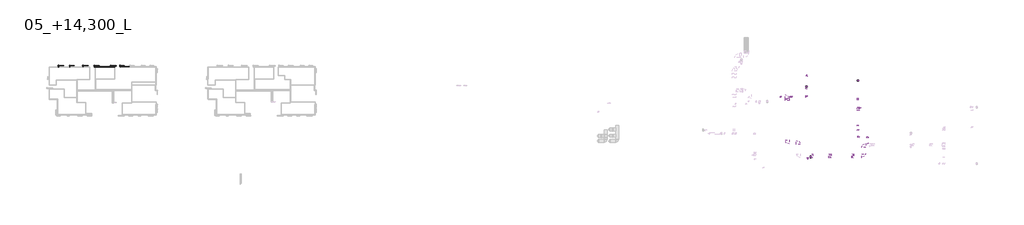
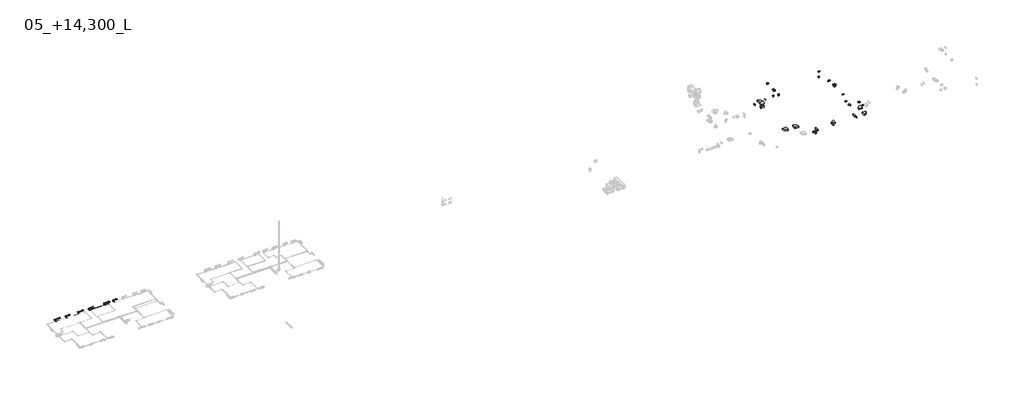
# One storey, part 13 of 15: 29 duct fittings, 25 pipe fittings, 21 pipe segments, 6 air terminals, 6 dampers, 6 proxies, 6 valves.
"""IFC4 building model written with IfcOpenShell, lengths in millimetres."""

from ifc_helpers import new_model, si_unit, point, frame, frame_2d, origin, place, context, project, spatial, circle_curve, trimmed, segment, composite_curve, outline, extrude, transform, mapped, element, save
from components import air_terminal_c7000286, mechanical_equipment_fc217036, mechanical_equipment_c0c35615, mechanical_equipment_c68842d5, mechanical_equipment_6df30eec, damper_914ab716, duct_fitting_44bc2392, duct_fitting_d71fa620, duct_fitting_440069ba, duct_fitting_c4820838, duct_fitting_b2306584, duct_fitting_946d3545, duct_fitting_a8f1dc46, duct_fitting_7af94283, duct_fitting_472c109a, duct_fitting_bc71a962, duct_fitting_01e88b05, duct_fitting_0ad4c2ae, pipe_fitting_ed936812, pipe_fitting_44bd76dc, pipe_fitting_8f811e63, pipe_fitting_d927fdfb, valve_5b696a81, valve_d3faaedd, valve_8453c3c0

model = new_model("IFC4")

# Units and contexts
model_context = context("Model", 3, world=origin())
ifc_project = project(units=[si_unit("LENGTHUNIT", "METRE", prefix="MILLI")], contexts=[model_context])

# Site, building, storey
site = spatial("IfcSite", under=ifc_project)
building = spatial("IfcBuilding", under=site)
storey = spatial("IfcBuildingStorey", under=building, Name="05_+14,300_L", Elevation=14300.0)

# Air terminals
placement = place(None, origin())
air_terminal_shape = air_terminal_c7000286(model_context)
element("IfcAirTerminal", 1, ObjectType="ADSK_ПВК_Сетка прямоугольная защитная Вытяжная : Сетка 500х250", at=placement, inside=storey, context=model_context, shape_type="MappedRepresentation", body=[
    mapped(air_terminal_shape, transform((252865.1831845, 115071.4903348, 17300.0), x_axis=(0.0, -1.0, 0.0), y_axis=(1.0, 0.0, 0.0), z_axis=(0.0, 0.0, 1.0))),
])
element("IfcAirTerminal", 2, ObjectType="ADSK_ПВК_Сетка прямоугольная защитная Вытяжная : Сетка 500х250", at=placement, inside=storey, context=model_context, shape_type="MappedRepresentation", body=[
    mapped(air_terminal_shape, transform((252455.1831845, 123667.4229855, 15000.0), x_axis=(1.0, 0.0, 0.0), y_axis=(0.0, 0.0, -1.0), z_axis=(0.0, 1.0, 0.0))),
])
element("IfcAirTerminal", 3, ObjectType="ADSK_ПВК_Сетка прямоугольная защитная Вытяжная : Сетка 500х250", at=placement, inside=storey, context=model_context, shape_type="MappedRepresentation", body=[
    mapped(air_terminal_shape, transform((237555.1831846, 99667.4589168, 15000.0), x_axis=(0.0, -1.0, 0.0), y_axis=(0.0, 0.0, -1.0), z_axis=(1.0, 0.0, 0.0))),
])
element("IfcAirTerminal", 4, ObjectType="ADSK_ПВК_Сетка прямоугольная защитная Вытяжная : Сетка 500х250", at=placement, inside=storey, context=model_context, shape_type="MappedRepresentation", body=[
    mapped(air_terminal_shape, transform((236664.9634687, 99232.5049086, 15900.0), x_axis=(-1.0, 0.0, 0.0), y_axis=(0.0, -1.0, 0.0), z_axis=(0.0, 0.0, 1.0))),
])
element("IfcAirTerminal", 5, ObjectType="ADSK_ПВК_Сетка прямоугольная защитная Вытяжная : Сетка 500х250", at=placement, inside=storey, context=model_context, shape_type="MappedRepresentation", body=[
    mapped(air_terminal_shape, transform((236255.1831845, 121886.1821747, 15000.0), x_axis=(-1.0, 0.0, 0.0), y_axis=(0.0, 0.0, -1.0), z_axis=(0.0, -1.0, 0.0))),
])
element("IfcAirTerminal", 6, ObjectType="ADSK_ПВК_Сетка прямоугольная защитная Вытяжная : Сетка 500х250", at=placement, inside=storey, context=model_context, shape_type="MappedRepresentation", body=[
    mapped(air_terminal_shape, transform((236255.1831845, 125257.4963208, 17274.6001016), x_axis=(1.0, 0.0, 0.0), y_axis=(0.0, 1.0, 0.0), z_axis=(0.0, 0.0, 1.0))),
])

# Proxies
mechanical_equipment_shape = mechanical_equipment_fc217036(model_context)
element("IfcBuildingElementProxy", 7, Name="EVRA CV Д : 22-300-1800", ObjectType="EVRA CV Д : 22-300-1800", at=placement, inside=storey, context=model_context, shape_type="MappedRepresentation", body=[
    mapped(mechanical_equipment_shape, transform((17960.0, 128438.5368898, 14300.0), x_axis=(1.0, 0.0, 0.0), y_axis=(0.0, 1.0, 0.0), z_axis=(0.0, 0.0, 1.0))),
])
mechanical_equipment_2_shape = mechanical_equipment_c0c35615(model_context)
element("IfcBuildingElementProxy", 8, Name="EVRA CV Д : 21-300-1600", ObjectType="EVRA CV Д : 21-300-1600", at=placement, inside=storey, context=model_context, shape_type="MappedRepresentation", body=[
    mapped(mechanical_equipment_2_shape, transform((12650.0, 128438.5368898, 14300.0), x_axis=(1.0, 0.0, 0.0), y_axis=(0.0, 1.0, 0.0), z_axis=(0.0, 0.0, 1.0))),
])
mechanical_equipment_3_shape = mechanical_equipment_c68842d5(model_context)
element("IfcBuildingElementProxy", 9, Name="EVRA CV Д : 21-300-1400", ObjectType="EVRA CV Д : 21-300-1400", at=placement, inside=storey, context=model_context, shape_type="MappedRepresentation", body=[
    mapped(mechanical_equipment_3_shape, transform((20700.0, 128438.5368898, 14300.0), x_axis=(1.0, 0.0, 0.0), y_axis=(0.0, 1.0, 0.0), z_axis=(0.0, 0.0, 1.0))),
])
element("IfcBuildingElementProxy", 10, Name="EVRA CV Д : 21-300-1400", ObjectType="EVRA CV Д : 21-300-1400", at=placement, inside=storey, context=model_context, shape_type="MappedRepresentation", body=[
    mapped(mechanical_equipment_3_shape, transform((4900.0, 128438.5368898, 14300.0), x_axis=(1.0, 0.0, 0.0), y_axis=(0.0, 1.0, 0.0), z_axis=(0.0, 0.0, 1.0))),
])
mechanical_equipment_4_shape = mechanical_equipment_6df30eec(model_context)
element("IfcBuildingElementProxy", 11, Name="EVRA CV Д : 21-300-1800", ObjectType="EVRA CV Д : 21-300-1800", at=placement, inside=storey, context=model_context, shape_type="MappedRepresentation", body=[
    mapped(mechanical_equipment_4_shape, transform((1500.0, 128438.5368898, 14300.0), x_axis=(1.0, 0.0, 0.0), y_axis=(0.0, 1.0, 0.0), z_axis=(0.0, 0.0, 1.0))),
])
element("IfcBuildingElementProxy", 12, Name="EVRA CV Д : 21-300-1800", ObjectType="EVRA CV Д : 21-300-1800", at=placement, inside=storey, context=model_context, shape_type="MappedRepresentation", body=[
    mapped(mechanical_equipment_4_shape, transform((9200.0, 128438.5368898, 14300.0), x_axis=(1.0, 0.0, 0.0), y_axis=(0.0, 1.0, 0.0), z_axis=(0.0, 0.0, 1.0))),
])

# Dampers
damper_shape = damper_914ab716(model_context)
element("IfcDamper", 13, ObjectType="АВК : АВК 500х250К8", at=placement, inside=storey, context=model_context, shape_type="MappedRepresentation", body=[
    mapped(damper_shape, transform((252797.6831845, 115071.4903348, 17300.0), x_axis=(-1.0, 0.0, 0.0), y_axis=(0.0, 1.0, 0.0), z_axis=(0.0, 0.0, -1.0))),
])
element("IfcDamper", 14, ObjectType="АВК : АВК 500х250К8", at=placement, inside=storey, context=model_context, shape_type="MappedRepresentation", body=[
    mapped(damper_shape, transform((236664.9634687, 99300.0049086, 15900.0), x_axis=(0.0, 1.0, 0.0), y_axis=(1.0, 0.0, 0.0), z_axis=(0.0, 0.0, -1.0))),
])
element("IfcDamper", 15, ObjectType="АВК : АВК 500х250К8", at=placement, inside=storey, context=model_context, shape_type="MappedRepresentation", body=[
    mapped(damper_shape, transform((236255.1831845, 125189.9963208, 17274.6001016), x_axis=(0.0, -1.0, 0.0), y_axis=(-1.0, 0.0, 0.0), z_axis=(0.0, 0.0, -1.0))),
])
element("IfcDamper", 16, ObjectType="АВК : АВК 500х250К8", at=placement, inside=storey, context=model_context, shape_type="MappedRepresentation", body=[
    mapped(damper_shape, transform((237555.1831846, 99667.4589168, 15500.0), x_axis=(0.0, 0.0, -1.0), y_axis=(0.0, -1.0, 0.0), z_axis=(-1.0, 0.0, 0.0))),
])
element("IfcDamper", 17, ObjectType="АВК : АВК 500х250К8", at=placement, inside=storey, context=model_context, shape_type="MappedRepresentation", body=[
    mapped(damper_shape, transform((252455.1831845, 114363.0425232, 17300.0), x_axis=(0.0, -1.0, 0.0), y_axis=(-1.0, 0.0, 0.0), z_axis=(0.0, 0.0, -1.0))),
])
element("IfcDamper", 18, ObjectType="АВК : АВК 500х250К8", at=placement, inside=storey, context=model_context, shape_type="MappedRepresentation", body=[
    mapped(damper_shape, transform((236255.1831845, 121127.4589173, 17274.6001016), x_axis=(0.0, 1.0, 0.0), y_axis=(1.0, 0.0, 0.0), z_axis=(0.0, 0.0, -1.0))),
])

# Duct fittings
duct_fitting_shape = duct_fitting_44bc2392(model_context)
element("IfcDuctFitting", 19, ObjectType="ADSK_ВрезкаВоздуховода_Прямоугольная1 : Стандарт 2", at=placement, inside=storey, context=model_context, shape_type="MappedRepresentation", body=[
    mapped(duct_fitting_shape, transform((236664.9634687, 99392.4589168, 15900.0), x_axis=(0.0, -1.0, 0.0), y_axis=(-1.0, 0.0, 0.0), z_axis=(0.0, 0.0, -1.0))),
])
duct_fitting_2_shape = duct_fitting_d71fa620(model_context)
element("IfcDuctFitting", 20, ObjectType="ADSK_ВрезкаВоздуховода_Прямоугольная1 : Стандарт 2", at=placement, inside=storey, context=model_context, shape_type="MappedRepresentation", body=[
    mapped(duct_fitting_2_shape, transform((228148.0764034, 118634.4589168, 16925.0), x_axis=(0.0, 0.0, -1.0), y_axis=(0.0, -1.0, 0.0), z_axis=(-1.0, 0.0, 0.0))),
])
element("IfcDuctFitting", 21, ObjectType="ADSK_ВрезкаВоздуховода_Прямоугольная1 : Стандарт 2", at=placement, inside=storey, context=model_context, shape_type="MappedRepresentation", body=[
    mapped(duct_fitting_2_shape, transform((237555.1831846, 99667.4589168, 15650.0), x_axis=(0.0, 0.0, -1.0), y_axis=(0.0, 1.0, 0.0), z_axis=(1.0, 0.0, 0.0))),
])
element("IfcDuctFitting", 22, ObjectType="ADSK_ВрезкаВоздуховода_Прямоугольная1 : Стандарт 2", at=placement, inside=storey, context=model_context, shape_type="MappedRepresentation", body=[
    mapped(duct_fitting_2_shape, transform((255555.1831845, 103917.4589168, 15800.0), x_axis=(0.0, 1.0, 0.0), y_axis=(1.0, 0.0, 0.0), z_axis=(0.0, 0.0, -1.0))),
])
duct_fitting_3_shape = duct_fitting_440069ba(model_context)
element("IfcDuctFitting", 23, ObjectType="ADSK_ТройникВоздуховодов_Прямоугольный1 : Стандарт 2", at=placement, inside=storey, context=model_context, shape_type="MappedRepresentation", body=[
    mapped(duct_fitting_3_shape, transform((252455.1831845, 115071.4903348, 17300.0), x_axis=(0.0, 1.0, 0.0), y_axis=(-1.0, 0.0, 0.0), z_axis=(0.0, 0.0, 1.0))),
])
duct_fitting_4_shape = duct_fitting_c4820838(model_context)
element("IfcDuctFitting", 24, ObjectType="ADSK_ТройникВоздуховодов_Прямоугольный1 : Стандарт 2", at=placement, inside=storey, context=model_context, shape_type="MappedRepresentation", body=[
    mapped(duct_fitting_4_shape, transform((236255.1831845, 121886.1821747, 17274.6001016), x_axis=(0.0, 1.0, 0.0), y_axis=(0.0, 0.0, 1.0), z_axis=(1.0, 0.0, 0.0))),
])
duct_fitting_5_shape = duct_fitting_b2306584(model_context)
element("IfcDuctFitting", 25, ObjectType="ADSK_ОтводВоздуховодов_Прямоугольный1 : Стандарт 2", at=placement, inside=storey, context=model_context, shape_type="MappedRepresentation", body=[
    mapped(duct_fitting_5_shape, transform((252455.1831845, 123667.4229855, 16875.0), x_axis=(0.0, 0.0, 1.0), y_axis=(0.0, -1.0, 0.0), z_axis=(1.0, 0.0, 0.0))),
])
element("IfcDuctFitting", 26, ObjectType="ADSK_ОтводВоздуховодов_Прямоугольный1 : Стандарт 2", at=placement, inside=storey, context=model_context, shape_type="MappedRepresentation", body=[
    mapped(duct_fitting_5_shape, transform((228148.0764034, 118634.4589168, 16600.0), x_axis=(0.0, 0.0, -1.0), y_axis=(1.0, 0.0, 0.0), z_axis=(0.0, -1.0, 0.0))),
])
duct_fitting_6_shape = duct_fitting_946d3545(model_context)
element("IfcDuctFitting", 27, ObjectType="ADSK_ОтводВоздуховодов_Прямоугольный1 : Стандарт 2", at=placement, inside=storey, context=model_context, shape_type="MappedRepresentation", body=[
    mapped(duct_fitting_6_shape, transform((255555.1831845, 105896.4840469, 15800.0), x_axis=(0.0, 1.0, 0.0), y_axis=(-1.0, 0.0, 0.0), z_axis=(0.0, 0.0, 1.0))),
])
element("IfcDuctFitting", 28, ObjectType="ADSK_ОтводВоздуховодов_Прямоугольный1 : Стандарт 2", at=placement, inside=storey, context=model_context, shape_type="MappedRepresentation", body=[
    mapped(duct_fitting_6_shape, transform((252455.1831845, 105896.4840469, 15800.0), x_axis=(0.0, -1.0, 0.0), y_axis=(1.0, 0.0, 0.0), z_axis=(0.0, 0.0, 1.0))),
])
element("IfcDuctFitting", 29, ObjectType="ADSK_ОтводВоздуховодов_Прямоугольный1 : Стандарт 2", at=placement, inside=storey, context=model_context, shape_type="MappedRepresentation", body=[
    mapped(duct_fitting_6_shape, transform((236255.1831845, 118634.4589168, 17274.6001016), x_axis=(1.0, 0.0, 0.0), y_axis=(0.0, 1.0, 0.0), z_axis=(0.0, 0.0, 1.0))),
])
duct_fitting_7_shape = duct_fitting_a8f1dc46(model_context)
element("IfcDuctFitting", 30, ObjectType="ADSK_ОтводВоздуховодов_Прямоугольный1 : Стандарт 2", at=placement, inside=storey, context=model_context, shape_type="MappedRepresentation", body=[
    mapped(duct_fitting_7_shape, transform((252455.1831845, 109577.4589168, 17300.0), x_axis=(0.0, -1.0, 0.0), y_axis=(0.0, 0.0, -1.0), z_axis=(1.0, 0.0, 0.0))),
])
element("IfcDuctFitting", 31, ObjectType="ADSK_ОтводВоздуховодов_Прямоугольный1 : Стандарт 2", at=placement, inside=storey, context=model_context, shape_type="MappedRepresentation", body=[
    mapped(duct_fitting_7_shape, transform((252455.1831845, 108077.4589168, 15800.0), x_axis=(0.0, 1.0, 0.0), y_axis=(0.0, 0.0, 1.0), z_axis=(1.0, 0.0, 0.0))),
])
element("IfcDuctFitting", 32, ObjectType="ADSK_ОтводВоздуховодов_Прямоугольный1 : Стандарт 2", at=placement, inside=storey, context=model_context, shape_type="MappedRepresentation", body=[
    mapped(duct_fitting_7_shape, transform((252455.1831845, 117652.4589168, 17300.0), x_axis=(0.0, 1.0, 0.0), y_axis=(0.0, 0.0, -1.0), z_axis=(-1.0, 0.0, 0.0))),
])
element("IfcDuctFitting", 33, ObjectType="ADSK_ОтводВоздуховодов_Прямоугольный1 : Стандарт 2", at=placement, inside=storey, context=model_context, shape_type="MappedRepresentation", body=[
    mapped(duct_fitting_7_shape, transform((252455.1831845, 118077.4589168, 16875.0), x_axis=(0.0, 0.7071067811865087, -0.7071067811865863), y_axis=(0.0, 0.7071067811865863, 0.7071067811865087), z_axis=(1.0, 0.0, 0.0))),
])
element("IfcDuctFitting", 34, ObjectType="ADSK_ОтводВоздуховодов_Прямоугольный1 : Стандарт 2", at=placement, inside=storey, context=model_context, shape_type="MappedRepresentation", body=[
    mapped(duct_fitting_7_shape, transform((230955.1831845, 118634.4589168, 16600.0), x_axis=(1.0, 0.0, 0.0), y_axis=(0.0, 0.0, 1.0), z_axis=(0.0, -1.0, 0.0))),
])
element("IfcDuctFitting", 35, ObjectType="ADSK_ОтводВоздуховодов_Прямоугольный1 : Стандарт 2", at=placement, inside=storey, context=model_context, shape_type="MappedRepresentation", body=[
    mapped(duct_fitting_7_shape, transform((231629.7832861, 118634.4589168, 17274.6001016), x_axis=(0.7071067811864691, 0.0, 0.7071067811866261), y_axis=(0.7071067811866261, 0.0, -0.7071067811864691), z_axis=(0.0, 1.0, 0.0))),
])
duct_fitting_8_shape = duct_fitting_7af94283(model_context)
element("IfcDuctFitting", 36, ObjectType="ADSK_ОтводВоздуховодов_Прямоугольный1 : Стандарт 2", at=placement, inside=storey, context=model_context, shape_type="MappedRepresentation", body=[
    mapped(duct_fitting_8_shape, transform((254205.1831845, 103317.4589168, 15850.0), x_axis=(-1.0, 0.0, 0.0), y_axis=(0.0, -1.0, 0.0), z_axis=(0.0, 0.0, 1.0))),
])
element("IfcDuctFitting", 37, ObjectType="ADSK_ОтводВоздуховодов_Прямоугольный1 : Стандарт 2", at=placement, inside=storey, context=model_context, shape_type="MappedRepresentation", body=[
    mapped(duct_fitting_8_shape, transform((254205.1831845, 99992.4589168, 15850.0), x_axis=(1.0, 0.0, 0.0), y_axis=(0.0, 1.0, 0.0), z_axis=(0.0, 0.0, 1.0))),
])
duct_fitting_9_shape = duct_fitting_472c109a(model_context)
element("IfcDuctFitting", 38, ObjectType="ADSK_ОтводВоздуховодов_Прямоугольный1 : Стандарт 2", at=placement, inside=storey, context=model_context, shape_type="MappedRepresentation", body=[
    mapped(duct_fitting_9_shape, transform((251035.1831845, 99992.4589168, 15850.0), x_axis=(-1.0, 0.0, 0.0), y_axis=(0.0, 0.0, 1.0), z_axis=(0.0, 1.0, 0.0))),
])
element("IfcDuctFitting", 39, ObjectType="ADSK_ОтводВоздуховодов_Прямоугольный1 : Стандарт 2", at=placement, inside=storey, context=model_context, shape_type="MappedRepresentation", body=[
    mapped(duct_fitting_9_shape, transform((250485.1831845, 99992.4589168, 16400.0), x_axis=(-0.7071067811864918, 0.0, 0.7071067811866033), y_axis=(-0.7071067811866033, 0.0, -0.7071067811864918), z_axis=(0.0, -1.0, 0.0))),
])
element("IfcDuctFitting", 40, ObjectType="ADSK_ОтводВоздуховодов_Прямоугольный1 : Стандарт 2", at=placement, inside=storey, context=model_context, shape_type="MappedRepresentation", body=[
    mapped(duct_fitting_9_shape, transform((243333.8123346, 99992.4589168, 15900.0), x_axis=(1.0, 0.0, 0.0), y_axis=(0.0, 0.0, 1.0), z_axis=(0.0, -1.0, 0.0))),
])
element("IfcDuctFitting", 41, ObjectType="ADSK_ОтводВоздуховодов_Прямоугольный1 : Стандарт 2", at=placement, inside=storey, context=model_context, shape_type="MappedRepresentation", body=[
    mapped(duct_fitting_9_shape, transform((243833.8123346, 99992.4589168, 16400.0), x_axis=(-1.0, 0.0, 0.0), y_axis=(0.0, 0.0, -1.0), z_axis=(0.0, -1.0, 0.0))),
])
duct_fitting_10_shape = duct_fitting_bc71a962(model_context)
element("IfcDuctFitting", 42, ObjectType="ADSK_ОтводВоздуховодов_Прямоугольный1 : Стандарт 2", at=placement, inside=storey, context=model_context, shape_type="MappedRepresentation", body=[
    mapped(duct_fitting_10_shape, transform((233629.0008433, 104297.4589168, 15900.0), x_axis=(0.0, 1.0, 0.0), y_axis=(-1.0, 0.0, 0.0), z_axis=(0.0, 0.0, 1.0))),
])
element("IfcDuctFitting", 43, ObjectType="ADSK_ОтводВоздуховодов_Прямоугольный1 : Стандарт 2", at=placement, inside=storey, context=model_context, shape_type="MappedRepresentation", body=[
    mapped(duct_fitting_10_shape, transform((230120.9551889, 104297.4589168, 15900.0), x_axis=(0.0, -1.0, 0.0), y_axis=(1.0, 0.0, 0.0), z_axis=(0.0, 0.0, 1.0))),
])
element("IfcDuctFitting", 44, ObjectType="ADSK_ОтводВоздуховодов_Прямоугольный1 : Стандарт 2", at=placement, inside=storey, context=model_context, shape_type="MappedRepresentation", body=[
    mapped(duct_fitting_10_shape, transform((230120.9551889, 118659.4589168, 17175.0), x_axis=(0.0, 1.0, 0.0), y_axis=(-1.0, 0.0, 0.0), z_axis=(0.0, 0.0, 1.0))),
])
duct_fitting_11_shape = duct_fitting_01e88b05(model_context)
element("IfcDuctFitting", 45, ObjectType="ADSK_ПереходникВоздуховодов_Прямоугольный1 : Стандартное 2", at=placement, inside=storey, context=model_context, shape_type="MappedRepresentation", body=[
    mapped(duct_fitting_11_shape, transform((237941.0346742, 99992.4589168, 15900.0), x_axis=(1.0, 0.0, 0.0), y_axis=(0.0, 1.0, 0.0), z_axis=(0.0, 0.0, 1.0))),
])
duct_fitting_12_shape = duct_fitting_0ad4c2ae(model_context)
element("IfcDuctFitting", 46, ObjectType="ADSK_ОтводВоздуховодов_Прямоугольный1 : Стандарт 2", at=placement, inside=storey, context=model_context, shape_type="MappedRepresentation", body=[
    mapped(duct_fitting_12_shape, transform((230120.9551889, 117676.0442963, 17175.0), x_axis=(0.0, -1.0, 0.0), y_axis=(0.0, 0.0, -1.0), z_axis=(1.0, 0.0, 0.0))),
])
element("IfcDuctFitting", 47, ObjectType="ADSK_ОтводВоздуховодов_Прямоугольный1 : Стандарт 2", at=placement, inside=storey, context=model_context, shape_type="MappedRepresentation", body=[
    mapped(duct_fitting_12_shape, transform((230120.9551889, 117676.0442963, 15900.0), x_axis=(0.0, 1.0, 0.0), y_axis=(0.0, 0.0, 1.0), z_axis=(1.0, 0.0, 0.0))),
])

# Pipe fittings
pipe_fitting_shape = pipe_fitting_ed936812(model_context)
element("IfcPipeFitting", 48, ObjectType="ADSK_Пресс-фитинг ПЭ_Поворот с фиксатором : Поворот трубы", at=placement, inside=storey, context=model_context, shape_type="MappedRepresentation", body=[
    mapped(pipe_fitting_shape, transform((20230.0, 128000.0, 14250.0), x_axis=(0.0, -1.0, 0.0), y_axis=(1.0, 0.0, 0.0), z_axis=(0.0, 0.0, 1.0))),
])
pipe_fitting_2_shape = pipe_fitting_44bd76dc(model_context)
element("IfcPipeFitting", 49, ObjectType="ADSK_Пресс-фитинг ПЭ_Тройник : Пластик черный", at=placement, inside=storey, context=model_context, shape_type="MappedRepresentation", body=[
    mapped(pipe_fitting_2_shape, transform((12830.0, 128100.0, 14250.0), x_axis=(-1.0, 0.0, 0.0), y_axis=(0.0, -1.0, 0.0), z_axis=(0.0, 0.0, 1.0))),
])
element("IfcPipeFitting", 50, ObjectType="ADSK_Пресс-фитинг ПЭ_Тройник : Пластик черный", at=placement, inside=storey, context=model_context, shape_type="MappedRepresentation", body=[
    mapped(pipe_fitting_2_shape, transform((880.0, 128000.0, 14250.0), x_axis=(-1.0, 0.0, 0.0), y_axis=(0.0, -1.0, 0.0), z_axis=(0.0, 0.0, 1.0))),
])
element("IfcPipeFitting", 51, ObjectType="ADSK_Пресс-фитинг ПЭ_Тройник : Пластик черный", at=placement, inside=storey, context=model_context, shape_type="MappedRepresentation", body=[
    mapped(pipe_fitting_2_shape, transform((4480.0, 128000.0, 14250.0), x_axis=(-1.0, 0.0, 0.0), y_axis=(0.0, -1.0, 0.0), z_axis=(0.0, 0.0, 1.0))),
])
element("IfcPipeFitting", 52, ObjectType="ADSK_Пресс-фитинг ПЭ_Тройник : Пластик черный", at=placement, inside=storey, context=model_context, shape_type="MappedRepresentation", body=[
    mapped(pipe_fitting_2_shape, transform((17290.0, 128000.0, 14250.0), x_axis=(-1.0, 0.0, 0.0), y_axis=(0.0, -1.0, 0.0), z_axis=(0.0, 0.0, 1.0))),
])
pipe_fitting_3_shape = pipe_fitting_8f811e63(model_context)
element("IfcPipeFitting", 53, ObjectType="ADSK_Пресс-фитинг ПЭ_Поворот с фиксатором : Поворот трубы", at=placement, inside=storey, context=model_context, shape_type="MappedRepresentation", body=[
    mapped(pipe_fitting_3_shape, transform((18535.0, 128000.0, 14250.0), x_axis=(0.0, 1.0, 0.0), y_axis=(-1.0, 0.0, 0.0), z_axis=(0.0, 0.0, 1.0))),
])
element("IfcPipeFitting", 54, ObjectType="ADSK_Пресс-фитинг ПЭ_Поворот с фиксатором : Поворот трубы", at=placement, inside=storey, context=model_context, shape_type="MappedRepresentation", body=[
    mapped(pipe_fitting_3_shape, transform((12435.0, 128100.0, 14250.0), x_axis=(-1.0, 0.0, 0.0), y_axis=(0.0, -1.0, 0.0), z_axis=(0.0, 0.0, 1.0))),
])
element("IfcPipeFitting", 55, ObjectType="ADSK_Пресс-фитинг ПЭ_Поворот с фиксатором : Поворот трубы", at=placement, inside=storey, context=model_context, shape_type="MappedRepresentation", body=[
    mapped(pipe_fitting_3_shape, transform((12830.0, 128248.0, 14250.0), x_axis=(0.0, 1.0, 0.0), y_axis=(-1.0, 0.0, 0.0), z_axis=(0.0, 0.0, 1.0))),
])
element("IfcPipeFitting", 56, ObjectType="ADSK_Пресс-фитинг ПЭ_Поворот с фиксатором : Поворот трубы", at=placement, inside=storey, context=model_context, shape_type="MappedRepresentation", body=[
    mapped(pipe_fitting_3_shape, transform((12130.0, 128248.0, 14250.0), x_axis=(0.0, -1.0, 0.0), y_axis=(1.0, 0.0, 0.0), z_axis=(0.0, 0.0, 1.0))),
])
element("IfcPipeFitting", 57, ObjectType="ADSK_Пресс-фитинг ПЭ_Поворот с фиксатором : Поворот трубы", at=placement, inside=storey, context=model_context, shape_type="MappedRepresentation", body=[
    mapped(pipe_fitting_3_shape, transform((8580.0, 128000.0, 14250.0), x_axis=(1.0, 0.0, 0.0), y_axis=(0.0, 1.0, 0.0), z_axis=(0.0, 0.0, 1.0))),
])
element("IfcPipeFitting", 58, ObjectType="ADSK_Пресс-фитинг ПЭ_Поворот с фиксатором : Поворот трубы", at=placement, inside=storey, context=model_context, shape_type="MappedRepresentation", body=[
    mapped(pipe_fitting_3_shape, transform((17340.0, 128100.0, 14250.0), x_axis=(1.0, 0.0, 0.0), y_axis=(0.0, 1.0, 0.0), z_axis=(0.0, 0.0, 1.0))),
])
element("IfcPipeFitting", 59, ObjectType="ADSK_Пресс-фитинг ПЭ_Поворот с фиксатором : Поворот трубы", at=placement, inside=storey, context=model_context, shape_type="MappedRepresentation", body=[
    mapped(pipe_fitting_3_shape, transform((20280.0, 128100.0, 14250.0), x_axis=(0.0, -1.0, 0.0), y_axis=(1.0, 0.0, 0.0), z_axis=(0.0, 0.0, 1.0))),
])
element("IfcPipeFitting", 60, ObjectType="ADSK_Пресс-фитинг ПЭ_Поворот с фиксатором : Поворот трубы", at=placement, inside=storey, context=model_context, shape_type="MappedRepresentation", body=[
    mapped(pipe_fitting_3_shape, transform((12080.0, 128000.0, 14250.0), x_axis=(0.0, -1.0, 0.0), y_axis=(1.0, 0.0, 0.0), z_axis=(0.0, 0.0, 1.0))),
])
pipe_fitting_4_shape = pipe_fitting_d927fdfb(model_context)
element("IfcPipeFitting", 61, ObjectType="Трубка Г-образная VTm.481.PC из стены : VTm.481.PC", at=placement, inside=storey, context=model_context, shape_type="MappedRepresentation", body=[
    mapped(pipe_fitting_4_shape, transform((17290.0, 128488.0, 14250.0), x_axis=(1.0, 0.0, 0.0), y_axis=(0.0, 1.0, 0.0), z_axis=(0.0, 0.0, 1.0))),
])
element("IfcPipeFitting", 62, ObjectType="Трубка Г-образная VTm.481.PC из стены : VTm.481.PC", at=placement, inside=storey, context=model_context, shape_type="MappedRepresentation", body=[
    mapped(pipe_fitting_4_shape, transform((20230.0, 128488.0, 14250.0), x_axis=(1.0, 0.0, 0.0), y_axis=(0.0, 1.0, 0.0), z_axis=(0.0, 0.0, 1.0))),
])
element("IfcPipeFitting", 63, ObjectType="Трубка Г-образная VTm.481.PC из стены : VTm.481.PC", at=placement, inside=storey, context=model_context, shape_type="MappedRepresentation", body=[
    mapped(pipe_fitting_4_shape, transform((830.0, 128488.0, 14250.0), x_axis=(1.0, 0.0, 0.0), y_axis=(0.0, 1.0, 0.0), z_axis=(0.0, 0.0, 1.0))),
])
element("IfcPipeFitting", 64, ObjectType="Трубка Г-образная VTm.481.PC из стены : VTm.481.PC", at=placement, inside=storey, context=model_context, shape_type="MappedRepresentation", body=[
    mapped(pipe_fitting_4_shape, transform((4430.0, 128488.0, 14250.0), x_axis=(1.0, 0.0, 0.0), y_axis=(0.0, 1.0, 0.0), z_axis=(0.0, 0.0, 1.0))),
])
element("IfcPipeFitting", 65, ObjectType="Трубка Г-образная VTm.481.PC из стены : VTm.481.PC", at=placement, inside=storey, context=model_context, shape_type="MappedRepresentation", body=[
    mapped(pipe_fitting_4_shape, transform((8530.0, 128488.0, 14250.0), x_axis=(1.0, 0.0, 0.0), y_axis=(0.0, 1.0, 0.0), z_axis=(0.0, 0.0, 1.0))),
])
element("IfcPipeFitting", 66, ObjectType="Трубка Г-образная VTm.481.PC из стены : VTm.481.PC", at=placement, inside=storey, context=model_context, shape_type="MappedRepresentation", body=[
    mapped(pipe_fitting_4_shape, transform((12080.0, 128488.0, 14250.0), x_axis=(1.0, 0.0, 0.0), y_axis=(0.0, 1.0, 0.0), z_axis=(0.0, 0.0, 1.0))),
])
element("IfcPipeFitting", 67, ObjectType="Трубка Г-образная VTm.481.PC из стены : VTm.481.PC", at=placement, inside=storey, context=model_context, shape_type="MappedRepresentation", body=[
    mapped(pipe_fitting_4_shape, transform((17340.0, 128488.0, 14250.0), x_axis=(1.0, 0.0, 0.0), y_axis=(0.0, 1.0, 0.0), z_axis=(0.0, 0.0, 1.0))),
])
element("IfcPipeFitting", 68, ObjectType="Трубка Г-образная VTm.481.PC из стены : VTm.481.PC", at=placement, inside=storey, context=model_context, shape_type="MappedRepresentation", body=[
    mapped(pipe_fitting_4_shape, transform((20280.0, 128488.0, 14250.0), x_axis=(1.0, 0.0, 0.0), y_axis=(0.0, 1.0, 0.0), z_axis=(0.0, 0.0, 1.0))),
])
element("IfcPipeFitting", 69, ObjectType="Трубка Г-образная VTm.481.PC из стены : VTm.481.PC", at=placement, inside=storey, context=model_context, shape_type="MappedRepresentation", body=[
    mapped(pipe_fitting_4_shape, transform((880.0, 128488.0, 14250.0), x_axis=(1.0, 0.0, 0.0), y_axis=(0.0, 1.0, 0.0), z_axis=(0.0, 0.0, 1.0))),
])
element("IfcPipeFitting", 70, ObjectType="Трубка Г-образная VTm.481.PC из стены : VTm.481.PC", at=placement, inside=storey, context=model_context, shape_type="MappedRepresentation", body=[
    mapped(pipe_fitting_4_shape, transform((4480.0, 128488.0, 14250.0), x_axis=(1.0, 0.0, 0.0), y_axis=(0.0, 1.0, 0.0), z_axis=(0.0, 0.0, 1.0))),
])
element("IfcPipeFitting", 71, ObjectType="Трубка Г-образная VTm.481.PC из стены : VTm.481.PC", at=placement, inside=storey, context=model_context, shape_type="MappedRepresentation", body=[
    mapped(pipe_fitting_4_shape, transform((8580.0, 128488.0, 14250.0), x_axis=(1.0, 0.0, 0.0), y_axis=(0.0, 1.0, 0.0), z_axis=(0.0, 0.0, 1.0))),
])
element("IfcPipeFitting", 72, ObjectType="Трубка Г-образная VTm.481.PC из стены : VTm.481.PC", at=placement, inside=storey, context=model_context, shape_type="MappedRepresentation", body=[
    mapped(pipe_fitting_4_shape, transform((12130.0, 128488.0, 14250.0), x_axis=(1.0, 0.0, 0.0), y_axis=(0.0, 1.0, 0.0), z_axis=(0.0, 0.0, 1.0))),
])

# Pipe segments
element("IfcPipeSegment", 73, ObjectType="ADSK_Полиэтилен сшитый", at=placement, inside=storey, context=model_context, shape_type="SweptSolid", body=[
    extrude(outline(composite_curve([segment(trimmed(circle_curve(frame_2d((14250.0, 8580.0)), 8.0), [point((14250.0, 8588.0))], [point((14258.0, 8580.0))], False, "CARTESIAN"), True, "CONTINUOUS"), segment(trimmed(circle_curve(frame_2d((14250.0, 8580.0)), 8.0), [point((14258.0, 8580.0))], [point((14250.0, 8572.0))], False, "CARTESIAN"), True, "CONTINUOUS"), segment(trimmed(circle_curve(frame_2d((14250.0, 8580.0)), 8.0), [point((14250.0, 8572.0))], [point((14242.0, 8580.0))], False, "CARTESIAN"), True, "CONTINUOUS"), segment(trimmed(circle_curve(frame_2d((14250.0, 8580.0)), 8.0), [point((14242.0, 8580.0))], [point((14250.0, 8588.0))], False, "CARTESIAN"), True, "CONTINUOUS")], self_intersect=False)), frame((0.0, 128048.0, 0.0), z_axis=(0.0, 1.0, 0.0), x_axis=(0.0, 0.0, 1.0)), (0.0, 0.0, 1.0), 325.0),
])
element("IfcPipeSegment", 74, ObjectType="ADSK_Полиэтилен сшитый", at=placement, inside=storey, context=model_context, shape_type="SweptSolid", body=[
    extrude(outline(composite_curve([segment(trimmed(circle_curve(frame_2d((14250.0, 8530.0)), 8.0), [point((14250.0, 8538.0))], [point((14258.0, 8530.0))], False, "CARTESIAN"), True, "CONTINUOUS"), segment(trimmed(circle_curve(frame_2d((14250.0, 8530.0)), 8.0), [point((14258.0, 8530.0))], [point((14250.0, 8522.0))], False, "CARTESIAN"), True, "CONTINUOUS"), segment(trimmed(circle_curve(frame_2d((14250.0, 8530.0)), 8.0), [point((14250.0, 8522.0))], [point((14242.0, 8530.0))], False, "CARTESIAN"), True, "CONTINUOUS"), segment(trimmed(circle_curve(frame_2d((14250.0, 8530.0)), 8.0), [point((14242.0, 8530.0))], [point((14250.0, 8538.0))], False, "CARTESIAN"), True, "CONTINUOUS")], self_intersect=False)), frame((0.0, 127924.0, 0.0), z_axis=(0.0, 1.0, 0.0), x_axis=(0.0, 0.0, 1.0)), (0.0, 0.0, 1.0), 449.0),
])
element("IfcPipeSegment", 75, ObjectType="ADSK_Полиэтилен сшитый", at=placement, inside=storey, context=model_context, shape_type="SweptSolid", body=[
    extrude(outline(composite_curve([segment(trimmed(circle_curve(frame_2d((128000.0, 14250.0)), 8.0), [point((127992.0, 14250.0))], [point((128000.0, 14258.0))], False, "CARTESIAN"), True, "CONTINUOUS"), segment(trimmed(circle_curve(frame_2d((128000.0, 14250.0)), 8.0), [point((128000.0, 14258.0))], [point((128008.0, 14250.0))], False, "CARTESIAN"), True, "CONTINUOUS"), segment(trimmed(circle_curve(frame_2d((128000.0, 14250.0)), 8.0), [point((128008.0, 14250.0))], [point((128000.0, 14242.0))], False, "CARTESIAN"), True, "CONTINUOUS"), segment(trimmed(circle_curve(frame_2d((128000.0, 14250.0)), 8.0), [point((128000.0, 14242.0))], [point((127992.0, 14250.0))], False, "CARTESIAN"), True, "CONTINUOUS")], self_intersect=False)), frame((4500.0, 0.0, 0.0), z_axis=(1.0, 0.0, 0.0), x_axis=(0.0, 1.0, 0.0)), (0.0, 0.0, 1.0), 4032.0),
])
element("IfcPipeSegment", 76, ObjectType="ADSK_Полиэтилен сшитый", at=placement, inside=storey, context=model_context, shape_type="SweptSolid", body=[
    extrude(outline(composite_curve([segment(trimmed(circle_curve(frame_2d((14250.0, 4480.0)), 8.0), [point((14250.0, 4488.0))], [point((14258.0, 4480.0))], False, "CARTESIAN"), True, "CONTINUOUS"), segment(trimmed(circle_curve(frame_2d((14250.0, 4480.0)), 8.0), [point((14258.0, 4480.0))], [point((14250.0, 4472.0))], False, "CARTESIAN"), True, "CONTINUOUS"), segment(trimmed(circle_curve(frame_2d((14250.0, 4480.0)), 8.0), [point((14250.0, 4472.0))], [point((14242.0, 4480.0))], False, "CARTESIAN"), True, "CONTINUOUS"), segment(trimmed(circle_curve(frame_2d((14250.0, 4480.0)), 8.0), [point((14242.0, 4480.0))], [point((14250.0, 4488.0))], False, "CARTESIAN"), True, "CONTINUOUS")], self_intersect=False)), frame((0.0, 128024.0, 0.0), z_axis=(0.0, 1.0, 0.0), x_axis=(0.0, 0.0, 1.0)), (0.0, 0.0, 1.0), 349.0),
])
element("IfcPipeSegment", 77, ObjectType="ADSK_Полиэтилен сшитый", at=placement, inside=storey, context=model_context, shape_type="SweptSolid", body=[
    extrude(outline(composite_curve([segment(trimmed(circle_curve(frame_2d((14250.0, 4430.0)), 8.0), [point((14250.0, 4438.0))], [point((14258.0, 4430.0))], False, "CARTESIAN"), True, "CONTINUOUS"), segment(trimmed(circle_curve(frame_2d((14250.0, 4430.0)), 8.0), [point((14258.0, 4430.0))], [point((14250.0, 4422.0))], False, "CARTESIAN"), True, "CONTINUOUS"), segment(trimmed(circle_curve(frame_2d((14250.0, 4430.0)), 8.0), [point((14250.0, 4422.0))], [point((14242.0, 4430.0))], False, "CARTESIAN"), True, "CONTINUOUS"), segment(trimmed(circle_curve(frame_2d((14250.0, 4430.0)), 8.0), [point((14242.0, 4430.0))], [point((14250.0, 4438.0))], False, "CARTESIAN"), True, "CONTINUOUS")], self_intersect=False)), frame((0.0, 127924.0, 0.0), z_axis=(0.0, 1.0, 0.0), x_axis=(0.0, 0.0, 1.0)), (0.0, 0.0, 1.0), 449.0),
])
element("IfcPipeSegment", 78, ObjectType="ADSK_Полиэтилен сшитый", at=placement, inside=storey, context=model_context, shape_type="SweptSolid", body=[
    extrude(outline(composite_curve([segment(trimmed(circle_curve(frame_2d((14250.0, 880.0)), 8.0), [point((14250.0, 888.0))], [point((14258.0, 880.0))], False, "CARTESIAN"), True, "CONTINUOUS"), segment(trimmed(circle_curve(frame_2d((14250.0, 880.0)), 8.0), [point((14258.0, 880.0))], [point((14250.0, 872.0))], False, "CARTESIAN"), True, "CONTINUOUS"), segment(trimmed(circle_curve(frame_2d((14250.0, 880.0)), 8.0), [point((14250.0, 872.0))], [point((14242.0, 880.0))], False, "CARTESIAN"), True, "CONTINUOUS"), segment(trimmed(circle_curve(frame_2d((14250.0, 880.0)), 8.0), [point((14242.0, 880.0))], [point((14250.0, 888.0))], False, "CARTESIAN"), True, "CONTINUOUS")], self_intersect=False)), frame((0.0, 128024.0, 0.0), z_axis=(0.0, 1.0, 0.0), x_axis=(0.0, 0.0, 1.0)), (0.0, 0.0, 1.0), 349.0),
])
element("IfcPipeSegment", 79, ObjectType="ADSK_Полиэтилен сшитый", at=placement, inside=storey, context=model_context, shape_type="SweptSolid", body=[
    extrude(outline(composite_curve([segment(trimmed(circle_curve(frame_2d((14250.0, 830.0)), 8.0), [point((14250.0, 838.0))], [point((14258.0, 830.0))], False, "CARTESIAN"), True, "CONTINUOUS"), segment(trimmed(circle_curve(frame_2d((14250.0, 830.0)), 8.0), [point((14258.0, 830.0))], [point((14250.0, 822.0))], False, "CARTESIAN"), True, "CONTINUOUS"), segment(trimmed(circle_curve(frame_2d((14250.0, 830.0)), 8.0), [point((14250.0, 822.0))], [point((14242.0, 830.0))], False, "CARTESIAN"), True, "CONTINUOUS"), segment(trimmed(circle_curve(frame_2d((14250.0, 830.0)), 8.0), [point((14242.0, 830.0))], [point((14250.0, 838.0))], False, "CARTESIAN"), True, "CONTINUOUS")], self_intersect=False)), frame((0.0, 127924.0, 0.0), z_axis=(0.0, 1.0, 0.0), x_axis=(0.0, 0.0, 1.0)), (0.0, 0.0, 1.0), 449.0),
])
element("IfcPipeSegment", 80, ObjectType="ADSK_Полиэтилен сшитый", at=placement, inside=storey, context=model_context, shape_type="SweptSolid", body=[
    extrude(outline(composite_curve([segment(trimmed(circle_curve(frame_2d((14250.0, 12830.0)), 8.0), [point((14250.0, 12838.0))], [point((14258.0, 12830.0))], False, "CARTESIAN"), True, "CONTINUOUS"), segment(trimmed(circle_curve(frame_2d((14250.0, 12830.0)), 8.0), [point((14258.0, 12830.0))], [point((14250.0, 12822.0))], False, "CARTESIAN"), True, "CONTINUOUS"), segment(trimmed(circle_curve(frame_2d((14250.0, 12830.0)), 8.0), [point((14250.0, 12822.0))], [point((14242.0, 12830.0))], False, "CARTESIAN"), True, "CONTINUOUS"), segment(trimmed(circle_curve(frame_2d((14250.0, 12830.0)), 8.0), [point((14242.0, 12830.0))], [point((14250.0, 12838.0))], False, "CARTESIAN"), True, "CONTINUOUS")], self_intersect=False)), frame((0.0, 128124.0, 0.0), z_axis=(0.0, 1.0, 0.0), x_axis=(0.0, 0.0, 1.0)), (0.0, 0.0, 1.0), 76.0),
])
element("IfcPipeSegment", 81, ObjectType="ADSK_Полиэтилен сшитый", at=placement, inside=storey, context=model_context, shape_type="SweptSolid", body=[
    extrude(outline(composite_curve([segment(trimmed(circle_curve(frame_2d((128100.0, 14250.0)), 8.0), [point((128092.0, 14250.0))], [point((128100.0, 14258.0))], False, "CARTESIAN"), True, "CONTINUOUS"), segment(trimmed(circle_curve(frame_2d((128100.0, 14250.0)), 8.0), [point((128100.0, 14258.0))], [point((128108.0, 14250.0))], False, "CARTESIAN"), True, "CONTINUOUS"), segment(trimmed(circle_curve(frame_2d((128100.0, 14250.0)), 8.0), [point((128108.0, 14250.0))], [point((128100.0, 14242.0))], False, "CARTESIAN"), True, "CONTINUOUS"), segment(trimmed(circle_curve(frame_2d((128100.0, 14250.0)), 8.0), [point((128100.0, 14242.0))], [point((128092.0, 14250.0))], False, "CARTESIAN"), True, "CONTINUOUS")], self_intersect=False)), frame((12483.0, 0.0, 0.0), z_axis=(1.0, 0.0, 0.0), x_axis=(0.0, 1.0, 0.0)), (0.0, 0.0, 1.0), 327.0),
])
element("IfcPipeSegment", 82, ObjectType="ADSK_Полиэтилен сшитый", at=placement, inside=storey, context=model_context, shape_type="SweptSolid", body=[
    extrude(outline(composite_curve([segment(trimmed(circle_curve(frame_2d((128000.0, 14250.0)), 8.0), [point((127992.0, 14250.0))], [point((128000.0, 14258.0))], False, "CARTESIAN"), True, "CONTINUOUS"), segment(trimmed(circle_curve(frame_2d((128000.0, 14250.0)), 8.0), [point((128000.0, 14258.0))], [point((128008.0, 14250.0))], False, "CARTESIAN"), True, "CONTINUOUS"), segment(trimmed(circle_curve(frame_2d((128000.0, 14250.0)), 8.0), [point((128008.0, 14250.0))], [point((128000.0, 14242.0))], False, "CARTESIAN"), True, "CONTINUOUS"), segment(trimmed(circle_curve(frame_2d((128000.0, 14250.0)), 8.0), [point((128000.0, 14242.0))], [point((127992.0, 14250.0))], False, "CARTESIAN"), True, "CONTINUOUS")], self_intersect=False)), frame((12128.0, 0.0, 0.0), z_axis=(1.0, 0.0, 0.0), x_axis=(0.0, 1.0, 0.0)), (0.0, 0.0, 1.0), 5142.0),
])
element("IfcPipeSegment", 83, ObjectType="ADSK_Полиэтилен сшитый", at=placement, inside=storey, context=model_context, shape_type="SweptSolid", body=[
    extrude(outline(composite_curve([segment(trimmed(circle_curve(frame_2d((14250.0, 17340.0)), 8.0), [point((14250.0, 17348.0))], [point((14258.0, 17340.0))], False, "CARTESIAN"), True, "CONTINUOUS"), segment(trimmed(circle_curve(frame_2d((14250.0, 17340.0)), 8.0), [point((14258.0, 17340.0))], [point((14250.0, 17332.0))], False, "CARTESIAN"), True, "CONTINUOUS"), segment(trimmed(circle_curve(frame_2d((14250.0, 17340.0)), 8.0), [point((14250.0, 17332.0))], [point((14242.0, 17340.0))], False, "CARTESIAN"), True, "CONTINUOUS"), segment(trimmed(circle_curve(frame_2d((14250.0, 17340.0)), 8.0), [point((14242.0, 17340.0))], [point((14250.0, 17348.0))], False, "CARTESIAN"), True, "CONTINUOUS")], self_intersect=False)), frame((0.0, 128148.0, 0.0), z_axis=(0.0, 1.0, 0.0), x_axis=(0.0, 0.0, 1.0)), (0.0, 0.0, 1.0), 225.0),
])
element("IfcPipeSegment", 84, ObjectType="ADSK_Полиэтилен сшитый", at=placement, inside=storey, context=model_context, shape_type="SweptSolid", body=[
    extrude(outline(composite_curve([segment(trimmed(circle_curve(frame_2d((128100.0, 14250.0)), 8.0), [point((128092.0, 14250.0))], [point((128100.0, 14258.0))], False, "CARTESIAN"), True, "CONTINUOUS"), segment(trimmed(circle_curve(frame_2d((128100.0, 14250.0)), 8.0), [point((128100.0, 14258.0))], [point((128108.0, 14250.0))], False, "CARTESIAN"), True, "CONTINUOUS"), segment(trimmed(circle_curve(frame_2d((128100.0, 14250.0)), 8.0), [point((128108.0, 14250.0))], [point((128100.0, 14242.0))], False, "CARTESIAN"), True, "CONTINUOUS"), segment(trimmed(circle_curve(frame_2d((128100.0, 14250.0)), 8.0), [point((128100.0, 14242.0))], [point((128092.0, 14250.0))], False, "CARTESIAN"), True, "CONTINUOUS")], self_intersect=False)), frame((12850.0, 0.0, 0.0), z_axis=(1.0, 0.0, 0.0), x_axis=(0.0, 1.0, 0.0)), (0.0, 0.0, 1.0), 4442.0),
])
element("IfcPipeSegment", 85, ObjectType="ADSK_Полиэтилен сшитый", at=placement, inside=storey, context=model_context, shape_type="SweptSolid", body=[
    extrude(outline(composite_curve([segment(trimmed(circle_curve(frame_2d((14250.0, 17290.0)), 8.0), [point((14250.0, 17298.0))], [point((14258.0, 17290.0))], False, "CARTESIAN"), True, "CONTINUOUS"), segment(trimmed(circle_curve(frame_2d((14250.0, 17290.0)), 8.0), [point((14258.0, 17290.0))], [point((14250.0, 17282.0))], False, "CARTESIAN"), True, "CONTINUOUS"), segment(trimmed(circle_curve(frame_2d((14250.0, 17290.0)), 8.0), [point((14250.0, 17282.0))], [point((14242.0, 17290.0))], False, "CARTESIAN"), True, "CONTINUOUS"), segment(trimmed(circle_curve(frame_2d((14250.0, 17290.0)), 8.0), [point((14242.0, 17290.0))], [point((14250.0, 17298.0))], False, "CARTESIAN"), True, "CONTINUOUS")], self_intersect=False)), frame((0.0, 128024.0, 0.0), z_axis=(0.0, 1.0, 0.0), x_axis=(0.0, 0.0, 1.0)), (0.0, 0.0, 1.0), 349.0),
])
element("IfcPipeSegment", 86, ObjectType="ADSK_Полиэтилен сшитый", at=placement, inside=storey, context=model_context, shape_type="SweptSolid", body=[
    extrude(outline(composite_curve([segment(trimmed(circle_curve(frame_2d((14250.0, 20280.0)), 8.0), [point((14250.0, 20288.0))], [point((14258.0, 20280.0))], False, "CARTESIAN"), True, "CONTINUOUS"), segment(trimmed(circle_curve(frame_2d((14250.0, 20280.0)), 8.0), [point((14258.0, 20280.0))], [point((14250.0, 20272.0))], False, "CARTESIAN"), True, "CONTINUOUS"), segment(trimmed(circle_curve(frame_2d((14250.0, 20280.0)), 8.0), [point((14250.0, 20272.0))], [point((14242.0, 20280.0))], False, "CARTESIAN"), True, "CONTINUOUS"), segment(trimmed(circle_curve(frame_2d((14250.0, 20280.0)), 8.0), [point((14242.0, 20280.0))], [point((14250.0, 20288.0))], False, "CARTESIAN"), True, "CONTINUOUS")], self_intersect=False)), frame((0.0, 128148.0, 0.0), z_axis=(0.0, 1.0, 0.0), x_axis=(0.0, 0.0, 1.0)), (0.0, 0.0, 1.0), 225.0),
])
element("IfcPipeSegment", 87, ObjectType="ADSK_Полиэтилен сшитый", at=placement, inside=storey, context=model_context, shape_type="SweptSolid", body=[
    extrude(outline(composite_curve([segment(trimmed(circle_curve(frame_2d((128100.0, 14250.0)), 8.0), [point((128108.0, 14250.0))], [point((128100.0, 14242.0))], False, "CARTESIAN"), True, "CONTINUOUS"), segment(trimmed(circle_curve(frame_2d((128100.0, 14250.0)), 8.0), [point((128100.0, 14242.0))], [point((128092.0, 14250.0))], False, "CARTESIAN"), True, "CONTINUOUS"), segment(trimmed(circle_curve(frame_2d((128100.0, 14250.0)), 8.0), [point((128092.0, 14250.0))], [point((128100.0, 14258.0))], False, "CARTESIAN"), True, "CONTINUOUS"), segment(trimmed(circle_curve(frame_2d((128100.0, 14250.0)), 8.0), [point((128100.0, 14258.0))], [point((128108.0, 14250.0))], False, "CARTESIAN"), True, "CONTINUOUS")], self_intersect=False)), frame((20328.0, 0.0, 0.0), z_axis=(1.0, 0.0, 0.0), x_axis=(0.0, 1.0, 0.0)), (0.0, 0.0, 1.0), 3032.0),
])
element("IfcPipeSegment", 88, ObjectType="ADSK_Полиэтилен сшитый", at=placement, inside=storey, context=model_context, shape_type="SweptSolid", body=[
    extrude(outline(composite_curve([segment(trimmed(circle_curve(frame_2d((14250.0, 20230.0)), 8.0), [point((14250.0, 20238.0))], [point((14258.0, 20230.0))], False, "CARTESIAN"), True, "CONTINUOUS"), segment(trimmed(circle_curve(frame_2d((14250.0, 20230.0)), 8.0), [point((14258.0, 20230.0))], [point((14250.0, 20222.0))], False, "CARTESIAN"), True, "CONTINUOUS"), segment(trimmed(circle_curve(frame_2d((14250.0, 20230.0)), 8.0), [point((14250.0, 20222.0))], [point((14242.0, 20230.0))], False, "CARTESIAN"), True, "CONTINUOUS"), segment(trimmed(circle_curve(frame_2d((14250.0, 20230.0)), 8.0), [point((14242.0, 20230.0))], [point((14250.0, 20238.0))], False, "CARTESIAN"), True, "CONTINUOUS")], self_intersect=False)), frame((0.0, 128048.0, 0.0), z_axis=(0.0, 1.0, 0.0), x_axis=(0.0, 0.0, 1.0)), (0.0, 0.0, 1.0), 325.0),
])
element("IfcPipeSegment", 89, ObjectType="ADSK_Полиэтилен сшитый", at=placement, inside=storey, context=model_context, shape_type="SweptSolid", body=[
    extrude(outline(composite_curve([segment(trimmed(circle_curve(frame_2d((14250.0, 12080.0)), 8.0), [point((14250.0, 12072.0))], [point((14242.0, 12080.0))], False, "CARTESIAN"), True, "CONTINUOUS"), segment(trimmed(circle_curve(frame_2d((14250.0, 12080.0)), 8.0), [point((14242.0, 12080.0))], [point((14250.0, 12088.0))], False, "CARTESIAN"), True, "CONTINUOUS"), segment(trimmed(circle_curve(frame_2d((14250.0, 12080.0)), 8.0), [point((14250.0, 12088.0))], [point((14258.0, 12080.0))], False, "CARTESIAN"), True, "CONTINUOUS"), segment(trimmed(circle_curve(frame_2d((14250.0, 12080.0)), 8.0), [point((14258.0, 12080.0))], [point((14250.0, 12072.0))], False, "CARTESIAN"), True, "CONTINUOUS")], self_intersect=False)), frame((0.0, 128048.0, 0.0), z_axis=(0.0, 1.0, 0.0), x_axis=(0.0, 0.0, 1.0)), (0.0, 0.0, 1.0), 325.0),
])
element("IfcPipeSegment", 90, ObjectType="ADSK_Полиэтилен сшитый", at=placement, inside=storey, context=model_context, shape_type="SweptSolid", body=[
    extrude(outline(composite_curve([segment(trimmed(circle_curve(frame_2d((14250.0, 12130.0)), 8.0), [point((14250.0, 12122.0))], [point((14242.0, 12130.0))], False, "CARTESIAN"), True, "CONTINUOUS"), segment(trimmed(circle_curve(frame_2d((14250.0, 12130.0)), 8.0), [point((14242.0, 12130.0))], [point((14250.0, 12138.0))], False, "CARTESIAN"), True, "CONTINUOUS"), segment(trimmed(circle_curve(frame_2d((14250.0, 12130.0)), 8.0), [point((14250.0, 12138.0))], [point((14258.0, 12130.0))], False, "CARTESIAN"), True, "CONTINUOUS"), segment(trimmed(circle_curve(frame_2d((14250.0, 12130.0)), 8.0), [point((14258.0, 12130.0))], [point((14250.0, 12122.0))], False, "CARTESIAN"), True, "CONTINUOUS")], self_intersect=False)), frame((0.0, 128296.0, 0.0), z_axis=(0.0, 1.0, 0.0), x_axis=(0.0, 0.0, 1.0)), (0.0, 0.0, 1.0), 77.0),
])
element("IfcPipeSegment", 91, ObjectType="ADSK_Полиэтилен сшитый", at=placement, inside=storey, context=model_context, shape_type="SweptSolid", body=[
    extrude(outline(composite_curve([segment(trimmed(circle_curve(frame_2d((128248.0, 14250.0)), 8.0), [point((128256.0, 14250.0))], [point((128248.0, 14242.0))], False, "CARTESIAN"), True, "CONTINUOUS"), segment(trimmed(circle_curve(frame_2d((128248.0, 14250.0)), 8.0), [point((128248.0, 14242.0))], [point((128240.0, 14250.0))], False, "CARTESIAN"), True, "CONTINUOUS"), segment(trimmed(circle_curve(frame_2d((128248.0, 14250.0)), 8.0), [point((128240.0, 14250.0))], [point((128248.0, 14258.0))], False, "CARTESIAN"), True, "CONTINUOUS"), segment(trimmed(circle_curve(frame_2d((128248.0, 14250.0)), 8.0), [point((128248.0, 14258.0))], [point((128256.0, 14250.0))], False, "CARTESIAN"), True, "CONTINUOUS")], self_intersect=False)), frame((12178.0, 0.0, 0.0), z_axis=(1.0, 0.0, 0.0), x_axis=(0.0, 1.0, 0.0)), (0.0, 0.0, 1.0), 604.0),
])
element("IfcPipeSegment", 92, ObjectType="ADSK_Полиэтилен сшитый", at=placement, inside=storey, context=model_context, shape_type="SweptSolid", body=[
    extrude(outline(composite_curve([segment(trimmed(circle_curve(frame_2d((128000.0, 14250.0)), 8.0), [point((127992.0, 14250.0))], [point((128000.0, 14258.0))], False, "CARTESIAN"), True, "CONTINUOUS"), segment(trimmed(circle_curve(frame_2d((128000.0, 14250.0)), 8.0), [point((128000.0, 14258.0))], [point((128008.0, 14250.0))], False, "CARTESIAN"), True, "CONTINUOUS"), segment(trimmed(circle_curve(frame_2d((128000.0, 14250.0)), 8.0), [point((128008.0, 14250.0))], [point((128000.0, 14242.0))], False, "CARTESIAN"), True, "CONTINUOUS"), segment(trimmed(circle_curve(frame_2d((128000.0, 14250.0)), 8.0), [point((128000.0, 14242.0))], [point((127992.0, 14250.0))], False, "CARTESIAN"), True, "CONTINUOUS")], self_intersect=False)), frame((900.0, 0.0, 0.0), z_axis=(1.0, 0.0, 0.0), x_axis=(0.0, 1.0, 0.0)), (0.0, 0.0, 1.0), 3560.0),
])
element("IfcPipeSegment", 93, ObjectType="ADSK_Полиэтилен сшитый", at=placement, inside=storey, context=model_context, shape_type="SweptSolid", body=[
    extrude(outline(composite_curve([segment(trimmed(circle_curve(frame_2d((128000.0, 14250.0)), 8.0), [point((128008.0, 14250.0))], [point((128000.0, 14242.0))], False, "CARTESIAN"), True, "CONTINUOUS"), segment(trimmed(circle_curve(frame_2d((128000.0, 14250.0)), 8.0), [point((128000.0, 14242.0))], [point((127992.0, 14250.0))], False, "CARTESIAN"), True, "CONTINUOUS"), segment(trimmed(circle_curve(frame_2d((128000.0, 14250.0)), 8.0), [point((127992.0, 14250.0))], [point((128000.0, 14258.0))], False, "CARTESIAN"), True, "CONTINUOUS"), segment(trimmed(circle_curve(frame_2d((128000.0, 14250.0)), 8.0), [point((128000.0, 14258.0))], [point((128008.0, 14250.0))], False, "CARTESIAN"), True, "CONTINUOUS")], self_intersect=False)), frame((17310.0, 0.0, 0.0), z_axis=(1.0, 0.0, 0.0), x_axis=(0.0, 1.0, 0.0)), (0.0, 0.0, 1.0), 1177.0),
])

# Valves
valve_shape = valve_5b696a81(model_context)
element("IfcValve", 94, ObjectType="EVRA_Термоголовка EVRA MТB140 : EVRA MТB140", at=placement, inside=storey, context=model_context, shape_type="MappedRepresentation", body=[
    mapped(valve_shape, transform((20900.0, 128413.0, 14650.0), x_axis=(1.0, 0.0, 0.0), y_axis=(0.0, 1.0, 0.0), z_axis=(0.0, 0.0, 1.0))),
])
element("IfcValve", 95, ObjectType="EVRA_Термоголовка EVRA MТB140 : EVRA MТB140", at=placement, inside=storey, context=model_context, shape_type="MappedRepresentation", body=[
    mapped(valve_shape, transform((5100.0, 128413.0, 14650.0), x_axis=(1.0, 0.0, 0.0), y_axis=(0.0, 1.0, 0.0), z_axis=(0.0, 0.0, 1.0))),
])
valve_2_shape = valve_d3faaedd(model_context)
element("IfcValve", 96, ObjectType="EVRA_Термоголовка EVRA MТB140 : EVRA MТB140", at=placement, inside=storey, context=model_context, shape_type="MappedRepresentation", body=[
    mapped(valve_2_shape, transform((18160.0, 128413.0, 14650.0), x_axis=(1.0, 0.0, 0.0), y_axis=(0.0, 1.0, 0.0), z_axis=(0.0, 0.0, 1.0))),
])
element("IfcValve", 97, ObjectType="EVRA_Термоголовка EVRA MТB140 : EVRA MТB140", at=placement, inside=storey, context=model_context, shape_type="MappedRepresentation", body=[
    mapped(valve_2_shape, transform((1700.0, 128413.0, 14650.0), x_axis=(1.0, 0.0, 0.0), y_axis=(0.0, 1.0, 0.0), z_axis=(0.0, 0.0, 1.0))),
])
element("IfcValve", 98, ObjectType="EVRA_Термоголовка EVRA MТB140 : EVRA MТB140", at=placement, inside=storey, context=model_context, shape_type="MappedRepresentation", body=[
    mapped(valve_2_shape, transform((9400.0, 128413.0, 14650.0), x_axis=(1.0, 0.0, 0.0), y_axis=(0.0, 1.0, 0.0), z_axis=(0.0, 0.0, 1.0))),
])
valve_3_shape = valve_8453c3c0(model_context)
element("IfcValve", 99, ObjectType="EVRA_Термоголовка EVRA MТB140 : EVRA MТB140", at=placement, inside=storey, context=model_context, shape_type="MappedRepresentation", body=[
    mapped(valve_3_shape, transform((12850.0, 128413.0, 14650.0), x_axis=(1.0, 0.0, 0.0), y_axis=(0.0, 1.0, 0.0), z_axis=(0.0, 0.0, 1.0))),
])

save(model, "model.ifc")
